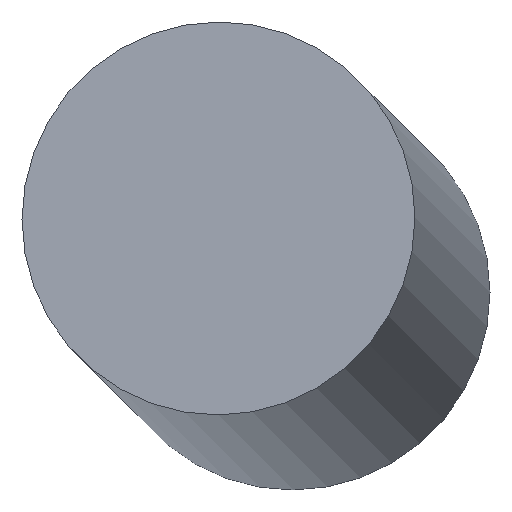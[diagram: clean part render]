
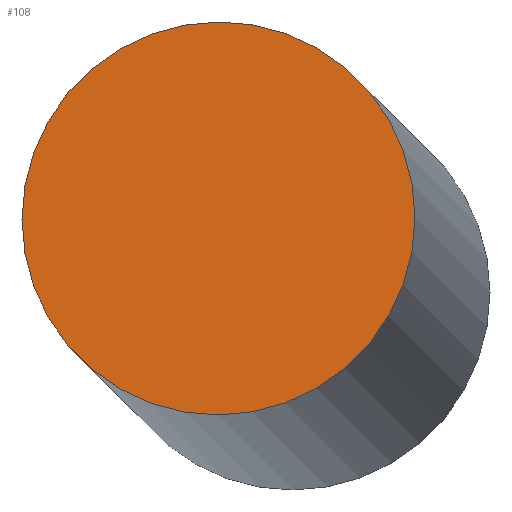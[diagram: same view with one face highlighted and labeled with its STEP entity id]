
A CAD part, front view. The second image highlights one B-rep face of the part: STEP entity #108.
In plain terms, the highlighted planar face has unit normal (-0.07, -0.995, 0.07).
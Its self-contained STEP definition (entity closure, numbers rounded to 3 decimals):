
#24 = VERTEX_POINT('',#25);
#25 = CARTESIAN_POINT('',(28.7,23.363,-11.774));
#32 = CYLINDRICAL_SURFACE('',#33,0.525);
#33 = AXIS2_PLACEMENT_3D('',#34,#35,#36);
#34 = CARTESIAN_POINT('',(28.9,26.25,-11.45));
#35 = DIRECTION('',(-0.07,-0.995,
    0.07));
#36 = DIRECTION('',(0.,-0.07,
    -0.998));
#50 = EDGE_CURVE('',#24,#24,#51,.T.);
#51 = SURFACE_CURVE('',#52,(#57,#64),.PCURVE_S1.);
#52 = CIRCLE('',#53,0.525);
#53 = AXIS2_PLACEMENT_3D('',#54,#55,#56);
#54 = CARTESIAN_POINT('',(28.7,23.4,-11.25));
#55 = DIRECTION('',(-0.07,-0.995,
    0.07));
#56 = DIRECTION('',(0.,-0.07,
    -0.998));
#57 = PCURVE('',#32,#58);
#58 = DEFINITIONAL_REPRESENTATION('',(#59),#63);
#59 = LINE('',#60,#61);
#60 = CARTESIAN_POINT('',(0.,2.864));
#61 = VECTOR('',#62,1.);
#62 = DIRECTION('',(1.,0.));
#63 = ( GEOMETRIC_REPRESENTATION_CONTEXT(2) 
PARAMETRIC_REPRESENTATION_CONTEXT() REPRESENTATION_CONTEXT('2D SPACE',''
  ) );
#64 = PCURVE('',#65,#70);
#65 = PLANE('',#66);
#66 = AXIS2_PLACEMENT_3D('',#67,#68,#69);
#67 = CARTESIAN_POINT('',(28.7,23.4,-11.25));
#68 = DIRECTION('',(-0.07,-0.995,
    0.07));
#69 = DIRECTION('',(0.,-0.07,
    -0.998));
#70 = DEFINITIONAL_REPRESENTATION('',(#71),#75);
#71 = CIRCLE('',#72,0.525);
#72 = AXIS2_PLACEMENT_2D('',#73,#74);
#73 = CARTESIAN_POINT('',(0.,0.));
#74 = DIRECTION('',(1.,0.));
#75 = ( GEOMETRIC_REPRESENTATION_CONTEXT(2) 
PARAMETRIC_REPRESENTATION_CONTEXT() REPRESENTATION_CONTEXT('2D SPACE',''
  ) );
#108 = ADVANCED_FACE('',(#109),#65,.T.);
#109 = FACE_BOUND('',#110,.T.);
#110 = EDGE_LOOP('',(#111));
#111 = ORIENTED_EDGE('',*,*,#50,.T.);
